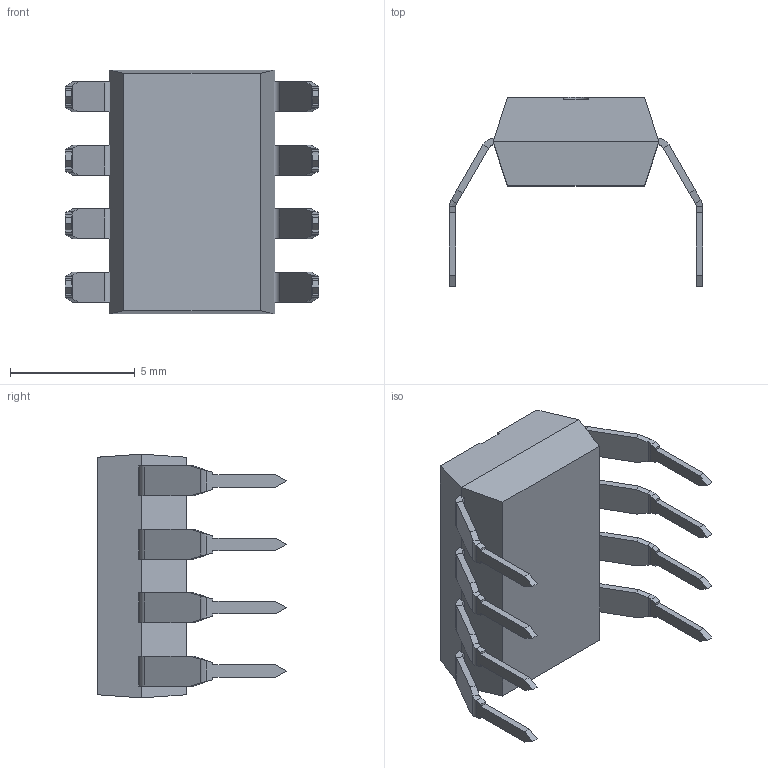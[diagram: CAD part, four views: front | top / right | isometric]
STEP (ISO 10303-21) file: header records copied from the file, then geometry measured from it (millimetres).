
FILE_DESCRIPTION (( 'STEP AP214' ), '1' );
FILE_NAME ('DIP8-OP6.STEP', '2015-12-12T20:18:29', ( '' ), ( '' ), 'SwSTEP 2.0', 'SolidWorks 2015', '' );
FILE_SCHEMA (( 'AUTOMOTIVE_DESIGN' ));
Length unit declared in the file: millimetre
Products named in the file (2): DIP8-OP6
Bounding box: 10.16 x 7.58 x 9.77 mm (x, y, z)
Volume: 245.3 mm3; surface area: 678 mm2
Topology: 4 solids, 4 shells, 234 faces, 550 edges, 324 vertices
Faces by surface type: plane 185, cylinder 33, bspline 16
Entity records: 6750 total; most frequent: CARTESIAN_POINT 1388, ORIENTED_EDGE 1100, DIRECTION 958, EDGE_CURVE 550, LINE 450, VECTOR 450, VERTEX_POINT 324, AXIS2_PLACEMENT_3D 254
